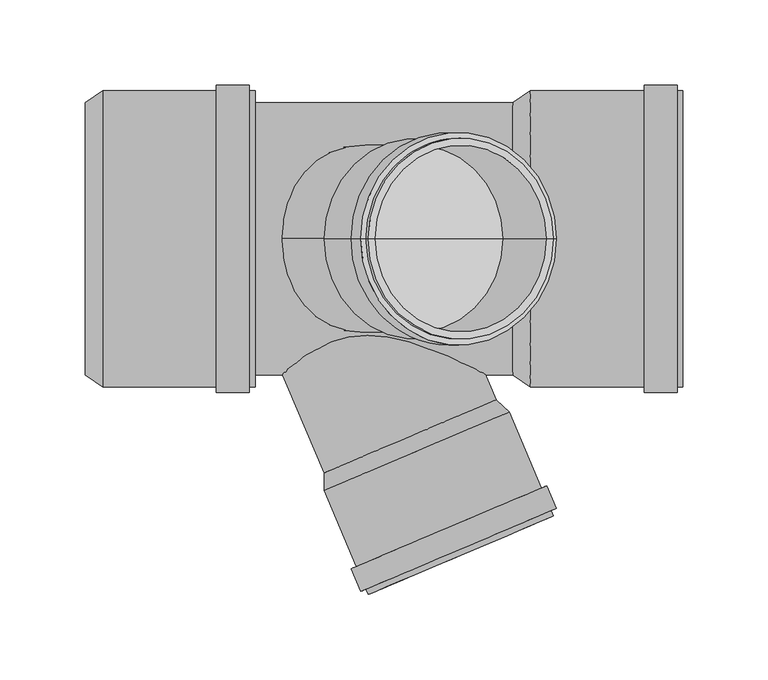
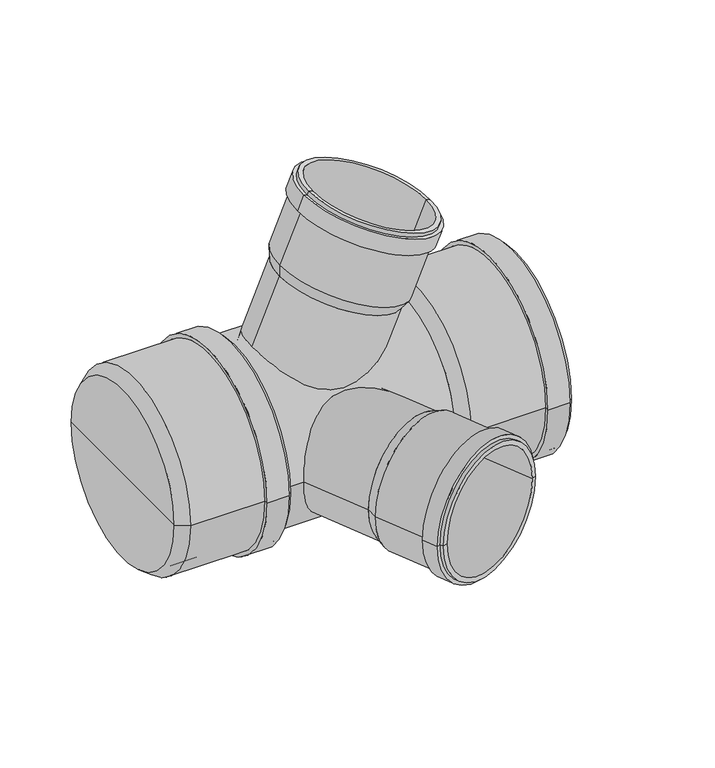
"""IFC4 building model written with IfcOpenShell, lengths in millimetres: pipe fitting geometry, pf_HTED : pf_HTED."""

from ifc_helpers import new_model, si_unit, point, frame, origin, origin_2d, place, context, project, spatial, polyline, circle_curve, trimmed, segment, composite_curve, outline, extrude, source, transform, mapped, element, save
from ifc_brep_helpers import plane_surface, cylinder_surface, revolved_surface, advanced_brep


def pipe_fitting_027d220c(model_context):
    return source(origin(), model_context, "Body", "SolidModel", [
        advanced_brep(
        [(99.9771085, 0.0, 94.7695509), (-1.2784254, 0.0, 137.7499751), (-1.3405496, 0.0, 148.0967688), (107.4631241, 0.0, 101.9123494), (49.3493415, 0.0, 116.259763), (133.4467441, 0.0, 163.1259222), (24.6430705, 0.0, 209.3103415), (28.4171404, 0.0, 207.7083439), (129.6726742, 0.0, 164.7279198), (132.1182583, 0.0, 159.9962057), (23.3145846, 0.0, 206.180625), (135.2479748, 0.0, 158.6677198), (20.1848681, 0.0, 207.5091109), (129.5823734, 0.0, 145.3203994), (14.5192668, 0.0, 194.1617905), (126.4526569, 0.0, 146.6488853), (17.6489833, 0.0, 192.8333047), (103.6890542, 0.0, 103.514347), (2.4335203, 0.0, 146.4947712), (53.0612872, 0.0, 125.0045591)],
        [
            (0, 1, circle_curve(frame((49.3493415, 0.0, 116.259763), z_axis=(0.3907311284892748, 0.0, 0.9205048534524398), x_axis=(-0.9205048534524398, 0.0, 0.3907311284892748)), 55.0)),
            (1, 2),
            (2, 3, circle_curve(frame((53.0612872, 0.0, 125.0045591), z_axis=(-0.3907311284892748, 0.0, -0.9205048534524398), x_axis=(-0.9205048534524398, 0.0, 0.3907311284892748)), 59.1)),
            (3, 0),
            (1, 0, circle_curve(frame((49.3493415, 0.0, 116.259763), z_axis=(0.3907311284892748, 0.0, 0.9205048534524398), x_axis=(-0.9205048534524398, 0.0, 0.3907311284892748)), 55.0)),
            (3, 2, circle_curve(frame((53.0612872, 0.0, 125.0045591), z_axis=(-0.3907311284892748, 0.0, -0.9205048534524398), x_axis=(-0.9205048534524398, 0.0, 0.3907311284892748)), 59.1)),
            (4, 1),
            (0, 4),
            (5, 6, circle_curve(frame((79.0449073, 0.0, 186.2181319), z_axis=(0.3907311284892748, 0.0, 0.9205048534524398), x_axis=(-0.9205048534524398, 0.0, 0.3907311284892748)), 59.1)),
            (6, 7),
            (7, 8, circle_curve(frame((79.0449073, 0.0, 186.2181319), z_axis=(-0.3907311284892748, 0.0, -0.9205048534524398), x_axis=(-0.9205048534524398, 0.0, 0.3907311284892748)), 55.0)),
            (8, 5),
            (6, 5, circle_curve(frame((79.0449073, 0.0, 186.2181319), z_axis=(0.3907311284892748, 0.0, 0.9205048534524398), x_axis=(-0.9205048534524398, 0.0, 0.3907311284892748)), 59.1)),
            (8, 7, circle_curve(frame((79.0449073, 0.0, 186.2181319), z_axis=(-0.3907311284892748, 0.0, -0.9205048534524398), x_axis=(-0.9205048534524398, 0.0, 0.3907311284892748)), 55.0)),
            (9, 10, circle_curve(frame((77.7164215, 0.0, 183.0884154), z_axis=(0.3907311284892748, 0.0, 0.9205048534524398), x_axis=(-0.9205048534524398, 0.0, 0.3907311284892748)), 59.1)),
            (10, 6),
            (5, 9),
            (10, 9, circle_curve(frame((77.7164215, 0.0, 183.0884154), z_axis=(0.3907311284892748, 0.0, 0.9205048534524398), x_axis=(-0.9205048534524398, 0.0, 0.3907311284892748)), 59.1)),
            (11, 12, circle_curve(frame((77.7164215, 0.0, 183.0884154), z_axis=(0.3907311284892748, 0.0, 0.9205048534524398), x_axis=(-0.9205048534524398, 0.0, 0.3907311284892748)), 62.5)),
            (12, 10),
            (9, 11),
            (12, 11, circle_curve(frame((77.7164215, 0.0, 183.0884154), z_axis=(0.3907311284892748, 0.0, 0.9205048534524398), x_axis=(-0.9205048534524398, 0.0, 0.3907311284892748)), 62.5)),
            (13, 14, circle_curve(frame((72.0508201, 0.0, 169.741095), z_axis=(0.3907311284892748, 0.0, 0.9205048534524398), x_axis=(-0.9205048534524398, 0.0, 0.3907311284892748)), 62.5)),
            (14, 12),
            (11, 13),
            (14, 13, circle_curve(frame((72.0508201, 0.0, 169.741095), z_axis=(0.3907311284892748, 0.0, 0.9205048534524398), x_axis=(-0.9205048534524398, 0.0, 0.3907311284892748)), 62.5)),
            (15, 16, circle_curve(frame((72.0508201, 0.0, 169.741095), z_axis=(0.3907311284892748, 0.0, 0.9205048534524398), x_axis=(-0.9205048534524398, 0.0, 0.3907311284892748)), 59.1)),
            (16, 14),
            (13, 15),
            (16, 15, circle_curve(frame((72.0508201, 0.0, 169.741095), z_axis=(0.3907311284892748, 0.0, 0.9205048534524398), x_axis=(-0.9205048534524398, 0.0, 0.3907311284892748)), 59.1)),
            (2, 16),
            (15, 3),
            (17, 18, circle_curve(frame((53.0612872, 0.0, 125.0045591), z_axis=(0.3907311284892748, 0.0, 0.9205048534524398), x_axis=(-0.9205048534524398, 0.0, 0.3907311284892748)), 55.0)),
            (18, 19),
            (19, 17),
            (18, 17, circle_curve(frame((53.0612872, 0.0, 125.0045591), z_axis=(0.3907311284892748, 0.0, 0.9205048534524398), x_axis=(-0.9205048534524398, 0.0, 0.3907311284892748)), 55.0)),
            (7, 18),
            (17, 8),
        ],
        [
            revolved_surface(polyline([(-1.3405496, 0.0, 148.0967688), (-1.2784254, 0.0, 137.7499751)]), (49.3493415, 0.0, 116.259763), (-0.3907311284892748, 0.0, -0.9205048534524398)),
            plane_surface(frame((49.3493415, 0.0, 116.259763), z_axis=(-0.3907311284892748, 0.0, -0.9205048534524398), x_axis=(-0.9205048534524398, 0.0, 0.3907311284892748))),
            plane_surface(frame((79.0449073, 0.0, 186.2181319), z_axis=(0.3907311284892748, 0.0, 0.9205048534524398), x_axis=(-0.9205048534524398, 0.0, 0.3907311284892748))),
            cylinder_surface(frame((49.3493415, 0.0, 116.259763), z_axis=(-0.3907311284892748, 0.0, -0.9205048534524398), x_axis=(-0.9205048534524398, 0.0, 0.3907311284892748)), 59.1),
            plane_surface(frame((77.7164215, 0.0, 183.0884154), z_axis=(0.3907311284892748, 0.0, 0.9205048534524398), x_axis=(-0.9205048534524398, 0.0, 0.3907311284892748))),
            cylinder_surface(frame((49.3493415, 0.0, 116.259763), z_axis=(-0.3907311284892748, 0.0, -0.9205048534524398), x_axis=(-0.9205048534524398, 0.0, 0.3907311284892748)), 62.5),
            plane_surface(frame((72.0508201, 0.0, 169.741095), z_axis=(-0.3907311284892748, 0.0, -0.9205048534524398), x_axis=(-0.9205048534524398, 0.0, 0.3907311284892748))),
            plane_surface(frame((53.0612872, 0.0, 125.0045591), z_axis=(0.3907311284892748, 0.0, 0.9205048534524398), x_axis=(-0.9205048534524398, 0.0, 0.3907311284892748))),
            revolved_surface(polyline([(2.4335202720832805, 0.0, 146.494771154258), (28.417140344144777, 0.0, 207.7083439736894)]), (49.3493415, 0.0, 116.259763), (-0.3907311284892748, 0.0, -0.9205048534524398)),
        ],
        [
            (0, [[1, 2, 3, 4]]),
            (0, [[5, -4, 6, -2]]),
            (1, [[7, -1, 8]]),
            (1, [[-8, -5, -7]]),
            (2, [[9, 10, 11, 12]]),
            (2, [[13, -12, 14, -10]]),
            (3, [[15, 16, -9, 17]]),
            (3, [[18, -17, -13, -16]]),
            (4, [[19, 20, -15, 21]]),
            (4, [[22, -21, -18, -20]]),
            (5, [[23, 24, -19, 25]]),
            (5, [[26, -25, -22, -24]]),
            (6, [[27, 28, -23, 29]]),
            (6, [[30, -29, -26, -28]]),
            (3, [[-3, 31, -27, 32]]),
            (3, [[-6, -32, -30, -31]]),
            (7, [[33, 34, 35]]),
            (7, [[36, -35, -34]]),
            (8, [[-11, 37, -33, 38]]),
            (8, [[-14, -38, -36, -37]]),
        ],
    ),
        advanced_brep(
        [(-1.2784254, -137.7499751, 0.0), (99.9771085, -94.7695509, 0.0), (107.4631241, -101.9123494, 0.0), (-1.3405496, -148.0967688, 0.0), (49.3493415, -116.259763, 0.0), (24.6430705, -209.3103415, 0.0), (133.4467441, -163.1259222, 0.0), (129.6726742, -164.7279198, 0.0), (28.4171404, -207.7083439, 0.0), (23.3145846, -206.180625, 0.0), (132.1182583, -159.9962057, 0.0), (20.1848681, -207.5091109, 0.0), (135.2479748, -158.6677198, 0.0), (14.5192668, -194.1617905, 0.0), (129.5823734, -145.3203994, 0.0), (17.6489833, -192.8333047, 0.0), (126.4526569, -146.6488853, 0.0), (2.4335203, -146.4947712, 0.0), (103.6890542, -103.514347, 0.0), (53.0612872, -125.0045591, 0.0)],
        [
            (0, 1, circle_curve(frame((49.3493415, -116.259763, 0.0), z_axis=(0.3907311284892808, -0.9205048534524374, 0.0), x_axis=(0.9205048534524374, 0.3907311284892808, 0.0)), 55.0)),
            (1, 2),
            (2, 3, circle_curve(frame((53.0612872, -125.0045591, 0.0), z_axis=(-0.3907311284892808, 0.9205048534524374, 0.0), x_axis=(0.9205048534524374, 0.3907311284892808, 0.0)), 59.1)),
            (3, 0),
            (1, 0, circle_curve(frame((49.3493415, -116.259763, 0.0), z_axis=(0.3907311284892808, -0.9205048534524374, 0.0), x_axis=(0.9205048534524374, 0.3907311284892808, 0.0)), 55.0)),
            (3, 2, circle_curve(frame((53.0612872, -125.0045591, 0.0), z_axis=(-0.3907311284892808, 0.9205048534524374, 0.0), x_axis=(0.9205048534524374, 0.3907311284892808, 0.0)), 59.1)),
            (4, 1),
            (0, 4),
            (5, 6, circle_curve(frame((79.0449073, -186.2181319, 0.0), z_axis=(0.3907311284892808, -0.9205048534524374, 0.0), x_axis=(0.9205048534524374, 0.3907311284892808, 0.0)), 59.1)),
            (6, 7),
            (7, 8, circle_curve(frame((79.0449073, -186.2181319, 0.0), z_axis=(-0.3907311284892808, 0.9205048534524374, 0.0), x_axis=(0.9205048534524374, 0.3907311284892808, 0.0)), 55.0)),
            (8, 5),
            (6, 5, circle_curve(frame((79.0449073, -186.2181319, 0.0), z_axis=(0.3907311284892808, -0.9205048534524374, 0.0), x_axis=(0.9205048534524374, 0.3907311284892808, 0.0)), 59.1)),
            (8, 7, circle_curve(frame((79.0449073, -186.2181319, 0.0), z_axis=(-0.3907311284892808, 0.9205048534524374, 0.0), x_axis=(0.9205048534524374, 0.3907311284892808, 0.0)), 55.0)),
            (9, 10, circle_curve(frame((77.7164215, -183.0884154, 0.0), z_axis=(0.3907311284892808, -0.9205048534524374, 0.0), x_axis=(0.9205048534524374, 0.3907311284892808, 0.0)), 59.1)),
            (10, 6),
            (5, 9),
            (10, 9, circle_curve(frame((77.7164215, -183.0884154, 0.0), z_axis=(0.3907311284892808, -0.9205048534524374, 0.0), x_axis=(0.9205048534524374, 0.3907311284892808, 0.0)), 59.1)),
            (11, 12, circle_curve(frame((77.7164215, -183.0884154, 0.0), z_axis=(0.3907311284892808, -0.9205048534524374, 0.0), x_axis=(0.9205048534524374, 0.3907311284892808, 0.0)), 62.5)),
            (12, 10),
            (9, 11),
            (12, 11, circle_curve(frame((77.7164215, -183.0884154, 0.0), z_axis=(0.3907311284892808, -0.9205048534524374, 0.0), x_axis=(0.9205048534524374, 0.3907311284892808, 0.0)), 62.5)),
            (13, 14, circle_curve(frame((72.0508201, -169.741095, 0.0), z_axis=(0.3907311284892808, -0.9205048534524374, 0.0), x_axis=(0.9205048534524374, 0.3907311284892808, 0.0)), 62.5)),
            (14, 12),
            (11, 13),
            (14, 13, circle_curve(frame((72.0508201, -169.741095, 0.0), z_axis=(0.3907311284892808, -0.9205048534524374, 0.0), x_axis=(0.9205048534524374, 0.3907311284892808, 0.0)), 62.5)),
            (15, 16, circle_curve(frame((72.0508201, -169.741095, 0.0), z_axis=(0.3907311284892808, -0.9205048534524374, 0.0), x_axis=(0.9205048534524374, 0.3907311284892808, 0.0)), 59.1)),
            (16, 14),
            (13, 15),
            (16, 15, circle_curve(frame((72.0508201, -169.741095, 0.0), z_axis=(0.3907311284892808, -0.9205048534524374, 0.0), x_axis=(0.9205048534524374, 0.3907311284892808, 0.0)), 59.1)),
            (2, 16),
            (15, 3),
            (17, 18, circle_curve(frame((53.0612872, -125.0045591, 0.0), z_axis=(0.3907311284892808, -0.9205048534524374, 0.0), x_axis=(0.9205048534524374, 0.3907311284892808, 0.0)), 55.0)),
            (18, 19),
            (19, 17),
            (18, 17, circle_curve(frame((53.0612872, -125.0045591, 0.0), z_axis=(0.3907311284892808, -0.9205048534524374, 0.0), x_axis=(0.9205048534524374, 0.3907311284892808, 0.0)), 55.0)),
            (7, 18),
            (17, 8),
        ],
        [
            revolved_surface(polyline([(107.4631241, -101.9123494, 0.0), (99.9771085, -94.7695509, 0.0)]), (49.3493415, -116.259763, 0.0), (-0.3907311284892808, 0.9205048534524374, 0.0)),
            plane_surface(frame((49.3493415, -116.259763, 0.0), z_axis=(-0.3907311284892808, 0.9205048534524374, 0.0), x_axis=(0.9205048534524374, 0.3907311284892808, 0.0))),
            plane_surface(frame((79.0449073, -186.2181319, 0.0), z_axis=(0.3907311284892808, -0.9205048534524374, 0.0), x_axis=(0.9205048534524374, 0.3907311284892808, 0.0))),
            cylinder_surface(frame((49.3493415, -116.259763, 0.0), z_axis=(-0.3907311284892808, 0.9205048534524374, 0.0), x_axis=(0.9205048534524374, 0.3907311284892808, 0.0)), 59.1),
            plane_surface(frame((77.7164215, -183.0884154, 0.0), z_axis=(0.3907311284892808, -0.9205048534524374, 0.0), x_axis=(0.9205048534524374, 0.3907311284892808, 0.0))),
            cylinder_surface(frame((49.3493415, -116.259763, 0.0), z_axis=(-0.3907311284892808, 0.9205048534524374, 0.0), x_axis=(0.9205048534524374, 0.3907311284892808, 0.0)), 62.5),
            plane_surface(frame((72.0508201, -169.741095, 0.0), z_axis=(-0.3907311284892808, 0.9205048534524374, 0.0), x_axis=(0.9205048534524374, 0.3907311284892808, 0.0))),
            plane_surface(frame((53.0612872, -125.0045591, 0.0), z_axis=(0.3907311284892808, -0.9205048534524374, 0.0), x_axis=(0.9205048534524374, 0.3907311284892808, 0.0))),
            revolved_surface(polyline([(103.68905415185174, -103.51434702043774, 0.0), (129.67267422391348, -164.72791983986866, 0.0)]), (49.3493415, -116.259763, 0.0), (-0.3907311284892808, 0.9205048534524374, 0.0)),
        ],
        [
            (0, [[1, 2, 3, 4]]),
            (0, [[5, -4, 6, -2]]),
            (1, [[7, -1, 8]]),
            (1, [[-8, -5, -7]]),
            (2, [[9, 10, 11, 12]]),
            (2, [[13, -12, 14, -10]]),
            (3, [[15, 16, -9, 17]]),
            (3, [[18, -17, -13, -16]]),
            (4, [[19, 20, -15, 21]]),
            (4, [[22, -21, -18, -20]]),
            (5, [[23, 24, -19, 25]]),
            (5, [[26, -25, -22, -24]]),
            (6, [[27, 28, -23, 29]]),
            (6, [[30, -29, -26, -28]]),
            (3, [[-3, 31, -27, 32]]),
            (3, [[-6, -32, -30, -31]]),
            (7, [[33, 34, 35]]),
            (7, [[36, -35, -34]]),
            (8, [[-11, 37, -33, 38]]),
            (8, [[-14, -38, -36, -37]]),
        ],
    ),
        advanced_brep(
        [(109.7, -80.0, 0.0), (109.7, 80.0, 0.0), (120.0, 87.1, 0.0), (120.0, -87.1, 0.0), (109.7, 0.0, 0.0), (209.7, -87.1, 0.0), (209.7, 87.1, 0.0), (209.7, 80.0, 0.0), (209.7, -80.0, 0.0), (206.3, -87.1, 0.0), (206.3, 87.1, 0.0), (206.3, -90.5, 0.0), (206.3, 90.5, 0.0), (186.8, -90.5, 0.0), (186.8, 90.5, 0.0), (186.8, -87.1, 0.0), (186.8, 87.1, 0.0), (120.0, -80.0, 0.0), (120.0, 80.0, 0.0), (120.0, 0.0, 0.0)],
        [
            (0, 1, circle_curve(frame((109.7, 0.0, 0.0), z_axis=(1.0, 0.0, 0.0), x_axis=(0.0, 1.0, 0.0)), 80.0)),
            (1, 2),
            (2, 3, circle_curve(frame((120.0, 0.0, 0.0), z_axis=(-1.0, 0.0, 0.0), x_axis=(0.0, 1.0, 0.0)), 87.1)),
            (3, 0),
            (1, 0, circle_curve(frame((109.7, 0.0, 0.0), z_axis=(1.0, 0.0, 0.0), x_axis=(0.0, 1.0, 0.0)), 80.0)),
            (3, 2, circle_curve(frame((120.0, 0.0, 0.0), z_axis=(-1.0, 0.0, 0.0), x_axis=(0.0, 1.0, 0.0)), 87.1)),
            (4, 1),
            (0, 4),
            (5, 6, circle_curve(frame((209.7, 0.0, 0.0), z_axis=(1.0, 0.0, 0.0), x_axis=(0.0, 1.0, 0.0)), 87.1)),
            (6, 7),
            (7, 8, circle_curve(frame((209.7, 0.0, 0.0), z_axis=(-1.0, 0.0, 0.0), x_axis=(0.0, 1.0, 0.0)), 80.0)),
            (8, 5),
            (6, 5, circle_curve(frame((209.7, 0.0, 0.0), z_axis=(1.0, 0.0, 0.0), x_axis=(0.0, 1.0, 0.0)), 87.1)),
            (8, 7, circle_curve(frame((209.7, 0.0, 0.0), z_axis=(-1.0, 0.0, 0.0), x_axis=(0.0, 1.0, 0.0)), 80.0)),
            (9, 10, circle_curve(frame((206.3, 0.0, 0.0), z_axis=(1.0, 0.0, 0.0), x_axis=(0.0, 1.0, 0.0)), 87.1)),
            (10, 6),
            (5, 9),
            (10, 9, circle_curve(frame((206.3, 0.0, 0.0), z_axis=(1.0, 0.0, 0.0), x_axis=(0.0, 1.0, 0.0)), 87.1)),
            (11, 12, circle_curve(frame((206.3, 0.0, 0.0), z_axis=(1.0, 0.0, 0.0), x_axis=(0.0, 1.0, 0.0)), 90.5)),
            (12, 10),
            (9, 11),
            (12, 11, circle_curve(frame((206.3, 0.0, 0.0), z_axis=(1.0, 0.0, 0.0), x_axis=(0.0, 1.0, 0.0)), 90.5)),
            (13, 14, circle_curve(frame((186.8, 0.0, 0.0), z_axis=(1.0, 0.0, 0.0), x_axis=(0.0, 1.0, 0.0)), 90.5)),
            (14, 12),
            (11, 13),
            (14, 13, circle_curve(frame((186.8, 0.0, 0.0), z_axis=(1.0, 0.0, 0.0), x_axis=(0.0, 1.0, 0.0)), 90.5)),
            (15, 16, circle_curve(frame((186.8, 0.0, 0.0), z_axis=(1.0, 0.0, 0.0), x_axis=(0.0, 1.0, 0.0)), 87.1)),
            (16, 14),
            (13, 15),
            (16, 15, circle_curve(frame((186.8, 0.0, 0.0), z_axis=(1.0, 0.0, 0.0), x_axis=(0.0, 1.0, 0.0)), 87.1)),
            (2, 16),
            (15, 3),
            (17, 18, circle_curve(frame((120.0, 0.0, 0.0), z_axis=(1.0, 0.0, 0.0), x_axis=(0.0, 1.0, 0.0)), 80.0)),
            (18, 19),
            (19, 17),
            (18, 17, circle_curve(frame((120.0, 0.0, 0.0), z_axis=(1.0, 0.0, 0.0), x_axis=(0.0, 1.0, 0.0)), 80.0)),
            (7, 18),
            (17, 8),
        ],
        [
            revolved_surface(polyline([(120.0, 87.1, 0.0), (109.7, 80.0, 0.0)]), (109.7, 0.0, 0.0), (-1.0, 0.0, 0.0)),
            plane_surface(frame((109.7, 0.0, 0.0), z_axis=(-1.0, 0.0, 0.0), x_axis=(0.0, 1.0, 0.0))),
            plane_surface(frame((209.7, 0.0, 0.0), z_axis=(1.0, 0.0, 0.0), x_axis=(0.0, 1.0, 0.0))),
            cylinder_surface(frame((109.7, 0.0, 0.0), z_axis=(-1.0, 0.0, 0.0), x_axis=(0.0, 1.0, 0.0)), 87.1),
            plane_surface(frame((206.3, 0.0, 0.0), z_axis=(1.0, 0.0, 0.0), x_axis=(0.0, 1.0, 0.0))),
            cylinder_surface(frame((109.7, 0.0, 0.0), z_axis=(-1.0, 0.0, 0.0), x_axis=(0.0, 1.0, 0.0)), 90.5),
            plane_surface(frame((186.8, 0.0, 0.0), z_axis=(-1.0, 0.0, 0.0), x_axis=(0.0, 1.0, 0.0))),
            plane_surface(frame((120.0, 0.0, 0.0), z_axis=(1.0, 0.0, 0.0), x_axis=(0.0, 1.0, 0.0))),
            revolved_surface(polyline([(120.0, 80.0, 0.0), (209.7, 80.0, 0.0)]), (109.7, 0.0, 0.0), (-1.0, 0.0, 0.0)),
        ],
        [
            (0, [[1, 2, 3, 4]]),
            (0, [[5, -4, 6, -2]]),
            (1, [[7, -1, 8]]),
            (1, [[-8, -5, -7]]),
            (2, [[9, 10, 11, 12]]),
            (2, [[13, -12, 14, -10]]),
            (3, [[15, 16, -9, 17]]),
            (3, [[18, -17, -13, -16]]),
            (4, [[19, 20, -15, 21]]),
            (4, [[22, -21, -18, -20]]),
            (5, [[23, 24, -19, 25]]),
            (5, [[26, -25, -22, -24]]),
            (6, [[27, 28, -23, 29]]),
            (6, [[30, -29, -26, -28]]),
            (3, [[-3, 31, -27, 32]]),
            (3, [[-6, -32, -30, -31]]),
            (7, [[33, 34, 35]]),
            (7, [[36, -35, -34]]),
            (8, [[-11, 37, -33, 38]]),
            (8, [[-14, -38, -36, -37]]),
        ],
    ),
        advanced_brep(
        [(-141.9, -80.0, 0.0), (-141.9, 80.0, 0.0), (-131.6, 87.1, 0.0), (-131.6, -87.1, 0.0), (-141.9, 0.0, 0.0), (-41.9, -87.1, 0.0), (-41.9, 87.1, 0.0), (-41.9, 80.0, 0.0), (-41.9, -80.0, 0.0), (-45.3, -87.1, 0.0), (-45.3, 87.1, 0.0), (-45.3, -90.5, 0.0), (-45.3, 90.5, 0.0), (-64.8, -90.5, 0.0), (-64.8, 90.5, 0.0), (-64.8, -87.1, 0.0), (-64.8, 87.1, 0.0), (-131.6, -80.0, 0.0), (-131.6, 80.0, 0.0), (-131.6, 0.0, 0.0)],
        [
            (0, 1, circle_curve(frame((-141.9, 0.0, 0.0), z_axis=(1.0, 0.0, 0.0), x_axis=(0.0, 1.0, 0.0)), 80.0)),
            (1, 2),
            (2, 3, circle_curve(frame((-131.6, 0.0, 0.0), z_axis=(-1.0, 0.0, 0.0), x_axis=(0.0, 1.0, 0.0)), 87.1)),
            (3, 0),
            (1, 0, circle_curve(frame((-141.9, 0.0, 0.0), z_axis=(1.0, 0.0, 0.0), x_axis=(0.0, 1.0, 0.0)), 80.0)),
            (3, 2, circle_curve(frame((-131.6, 0.0, 0.0), z_axis=(-1.0, 0.0, 0.0), x_axis=(0.0, 1.0, 0.0)), 87.1)),
            (4, 1),
            (0, 4),
            (5, 6, circle_curve(frame((-41.9, 0.0, 0.0), z_axis=(1.0, 0.0, 0.0), x_axis=(0.0, 1.0, 0.0)), 87.1)),
            (6, 7),
            (7, 8, circle_curve(frame((-41.9, 0.0, 0.0), z_axis=(-1.0, 0.0, 0.0), x_axis=(0.0, 1.0, 0.0)), 80.0)),
            (8, 5),
            (6, 5, circle_curve(frame((-41.9, 0.0, 0.0), z_axis=(1.0, 0.0, 0.0), x_axis=(0.0, 1.0, 0.0)), 87.1)),
            (8, 7, circle_curve(frame((-41.9, 0.0, 0.0), z_axis=(-1.0, 0.0, 0.0), x_axis=(0.0, 1.0, 0.0)), 80.0)),
            (9, 10, circle_curve(frame((-45.3, 0.0, 0.0), z_axis=(1.0, 0.0, 0.0), x_axis=(0.0, 1.0, 0.0)), 87.1)),
            (10, 6),
            (5, 9),
            (10, 9, circle_curve(frame((-45.3, 0.0, 0.0), z_axis=(1.0, 0.0, 0.0), x_axis=(0.0, 1.0, 0.0)), 87.1)),
            (11, 12, circle_curve(frame((-45.3, 0.0, 0.0), z_axis=(1.0, 0.0, 0.0), x_axis=(0.0, 1.0, 0.0)), 90.5)),
            (12, 10),
            (9, 11),
            (12, 11, circle_curve(frame((-45.3, 0.0, 0.0), z_axis=(1.0, 0.0, 0.0), x_axis=(0.0, 1.0, 0.0)), 90.5)),
            (13, 14, circle_curve(frame((-64.8, 0.0, 0.0), z_axis=(1.0, 0.0, 0.0), x_axis=(0.0, 1.0, 0.0)), 90.5)),
            (14, 12),
            (11, 13),
            (14, 13, circle_curve(frame((-64.8, 0.0, 0.0), z_axis=(1.0, 0.0, 0.0), x_axis=(0.0, 1.0, 0.0)), 90.5)),
            (15, 16, circle_curve(frame((-64.8, 0.0, 0.0), z_axis=(1.0, 0.0, 0.0), x_axis=(0.0, 1.0, 0.0)), 87.1)),
            (16, 14),
            (13, 15),
            (16, 15, circle_curve(frame((-64.8, 0.0, 0.0), z_axis=(1.0, 0.0, 0.0), x_axis=(0.0, 1.0, 0.0)), 87.1)),
            (2, 16),
            (15, 3),
            (17, 18, circle_curve(frame((-131.6, 0.0, 0.0), z_axis=(1.0, 0.0, 0.0), x_axis=(0.0, 1.0, 0.0)), 80.0)),
            (18, 19),
            (19, 17),
            (18, 17, circle_curve(frame((-131.6, 0.0, 0.0), z_axis=(1.0, 0.0, 0.0), x_axis=(0.0, 1.0, 0.0)), 80.0)),
            (7, 18),
            (17, 8),
        ],
        [
            revolved_surface(polyline([(-131.6, 87.1, 0.0), (-141.9, 80.0, 0.0)]), (-141.9, 0.0, 0.0), (-1.0, 0.0, 0.0)),
            plane_surface(frame((-141.9, 0.0, 0.0), z_axis=(-1.0, 0.0, 0.0), x_axis=(0.0, 1.0, 0.0))),
            plane_surface(frame((-41.9, 0.0, 0.0), z_axis=(1.0, 0.0, 0.0), x_axis=(0.0, 1.0, 0.0))),
            cylinder_surface(frame((-141.9, 0.0, 0.0), z_axis=(-1.0, 0.0, 0.0), x_axis=(0.0, 1.0, 0.0)), 87.1),
            plane_surface(frame((-45.3, 0.0, 0.0), z_axis=(1.0, 0.0, 0.0), x_axis=(0.0, 1.0, 0.0))),
            cylinder_surface(frame((-141.9, 0.0, 0.0), z_axis=(-1.0, 0.0, 0.0), x_axis=(0.0, 1.0, 0.0)), 90.5),
            plane_surface(frame((-64.8, 0.0, 0.0), z_axis=(-1.0, 0.0, 0.0), x_axis=(0.0, 1.0, 0.0))),
            plane_surface(frame((-131.6, 0.0, 0.0), z_axis=(1.0, 0.0, 0.0), x_axis=(0.0, 1.0, 0.0))),
            revolved_surface(polyline([(-131.6, 80.0, 0.0), (-41.900000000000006, 80.0, 0.0)]), (-141.9, 0.0, 0.0), (-1.0, 0.0, 0.0)),
        ],
        [
            (0, [[1, 2, 3, 4]]),
            (0, [[5, -4, 6, -2]]),
            (1, [[7, -1, 8]]),
            (1, [[-8, -5, -7]]),
            (2, [[9, 10, 11, 12]]),
            (2, [[13, -12, 14, -10]]),
            (3, [[15, 16, -9, 17]]),
            (3, [[18, -17, -13, -16]]),
            (4, [[19, 20, -15, 21]]),
            (4, [[22, -21, -18, -20]]),
            (5, [[23, 24, -19, 25]]),
            (5, [[26, -25, -22, -24]]),
            (6, [[27, 28, -23, 29]]),
            (6, [[30, -29, -26, -28]]),
            (3, [[-3, 31, -27, 32]]),
            (3, [[-6, -32, -30, -31]]),
            (7, [[33, 34, 35]]),
            (7, [[36, -35, -34]]),
            (8, [[-11, 37, -33, 38]]),
            (8, [[-14, -38, -36, -37]]),
        ],
    ),
        extrude(outline(composite_curve([segment(trimmed(circle_curve(origin_2d(), 55.0), [point((0.0, 55.0))], [point((0.0, -55.0))], False, "CARTESIAN"), True, "CONTINUOUS"), segment(trimmed(circle_curve(origin_2d(), 55.0), [point((0.0, -55.0))], [point((0.0, 55.0))], False, "CARTESIAN"), True, "CONTINUOUS")], self_intersect=False)), frame((0.0, 0.0, 0.0), z_axis=(0.3907311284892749, 0.0, 0.9205048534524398), x_axis=(0.0, -1.0, 0.0)), (0.0, 0.0, 1.0), 126.3),
        extrude(outline(composite_curve([segment(trimmed(circle_curve(origin_2d(), 55.0), [point((0.0, -55.0))], [point((0.0, 55.0000001))], False, "CARTESIAN"), True, "CONTINUOUS"), segment(trimmed(circle_curve(origin_2d(), 55.0), [point((0.0, 55.0000001))], [point((0.0, -55.0))], False, "CARTESIAN"), True, "CONTINUOUS")], self_intersect=False)), frame((49.3493415, -116.259763, 0.0), z_axis=(-0.39073112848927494, 0.9205048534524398, 0.0), x_axis=(0.0, 0.0, 1.0)), (0.0, 0.0, 1.0), 126.3),
        extrude(outline(composite_curve([segment(trimmed(circle_curve(origin_2d(), 80.0), [point((-80.0, 0.0))], [point((80.0, 0.0))], False, "CARTESIAN"), True, "CONTINUOUS"), segment(trimmed(circle_curve(origin_2d(), 80.0), [point((80.0, 0.0))], [point((-80.0, 0.0))], False, "CARTESIAN"), True, "CONTINUOUS")], self_intersect=False)), frame((-131.6, 0.0, 0.0), z_axis=(1.0, 0.0, 0.0), x_axis=(0.0, 1.0, 0.0)), (0.0, 0.0, 1.0), 241.3),
    ])


if __name__ == "__main__":
    model = new_model("IFC4")
    model_context = context("Model", 3, world=origin())
    ifc_project = project(units=[si_unit("LENGTHUNIT", "METRE", prefix="MILLI")], contexts=[model_context])
    site = spatial("IfcSite", under=ifc_project)
    building = spatial("IfcBuilding", under=site)
    placement = place(None, origin())
    pipe_fitting_shape = pipe_fitting_027d220c(model_context)
    element("IfcPipeFitting", 1, ObjectType="pf_HTED : pf_HTED", at=placement, inside=building, context=model_context, shape_type="MappedRepresentation", body=[
        mapped(pipe_fitting_shape, transform((0.0, 0.0, 0.0), x_axis=(1.0, 0.0, 0.0), y_axis=(0.0, 1.0, 0.0), z_axis=(0.0, 0.0, 1.0))),
    ])
    save(model, "model.ifc")
